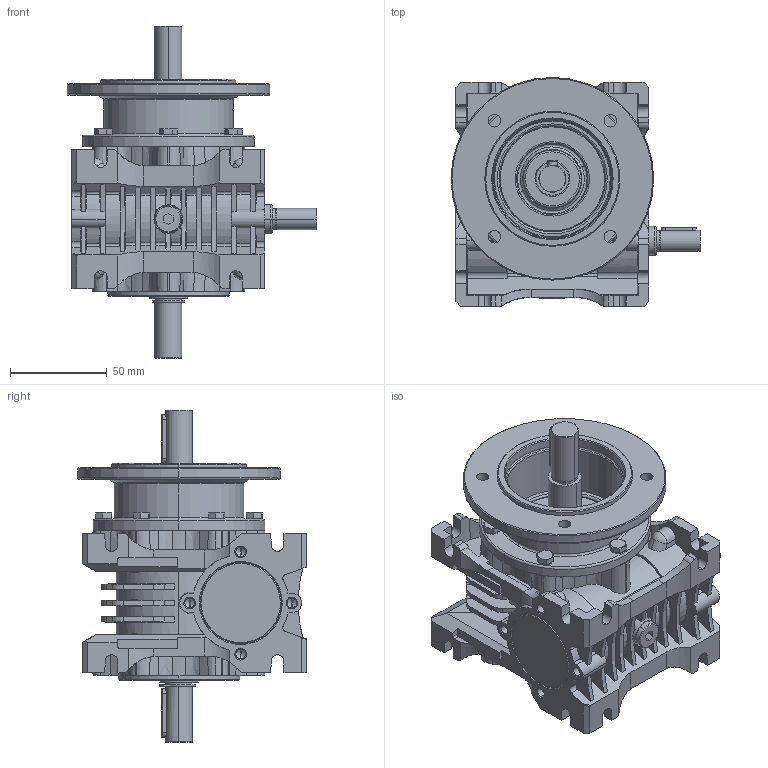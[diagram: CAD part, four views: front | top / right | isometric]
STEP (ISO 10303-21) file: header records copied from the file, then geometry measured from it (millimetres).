
FILE_DESCRIPTION (( 'STEP AP203' ), '1' );
FILE_NAME ('MR-32_WBS-K105_2-WD_2-3D.STEP', '2022-01-26T08:07:44', ( '' ), ( '' ), 'SwSTEP 2.0', 'SolidWorks 2022', '' );
FILE_SCHEMA (( 'CONFIG_CONTROL_DESIGN' ));
Length unit declared in the file: millimetre
Products named in the file (1): MR-32_WBS-K105_2-WD_2-3D
Bounding box: 129.5 x 118.5 x 172 mm (x, y, z)
Volume: 617726.9 mm3; surface area: 134355.4 mm2
Topology: 1 solids, 24 shells, 1589 faces, 4166 edges, 2644 vertices
Faces by surface type: plane 632, cone 459, cylinder 383, torus 60, bspline 49, sphere 6
Entity records: 51179 total; most frequent: CARTESIAN_POINT 13157, ORIENTED_EDGE 8244, DIRECTION 7729, EDGE_CURVE 4122, AXIS2_PLACEMENT_3D 2856, VERTEX_POINT 2644, LINE 2017, VECTOR 2017
